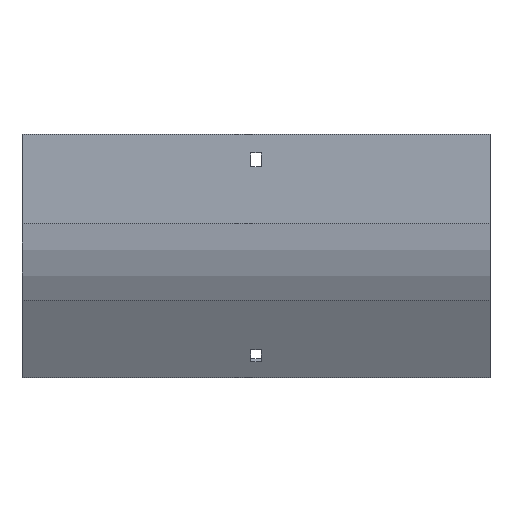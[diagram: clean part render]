
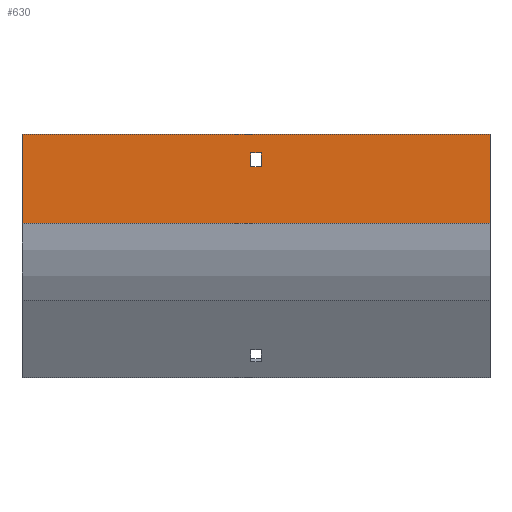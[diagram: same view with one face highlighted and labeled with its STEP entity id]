
A CAD part, front view. The second image highlights one B-rep face of the part: STEP entity #630.
In plain terms, the highlighted planar face has unit normal (0, -1, 0).
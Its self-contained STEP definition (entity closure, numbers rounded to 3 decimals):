
#5 = CARTESIAN_POINT ( 'NONE',  ( -152., -104., -57.867 ) ) ;
#12 = CARTESIAN_POINT ( 'NONE',  ( -152., -104., -57.867 ) ) ;
#50 = ORIENTED_EDGE ( 'NONE', *, *, #1092, .F. ) ;
#71 = DIRECTION ( 'NONE',  ( 0., 0., 1. ) ) ;
#72 = CARTESIAN_POINT ( 'NONE',  ( 152., -104., -57.867 ) ) ;
#90 = ORIENTED_EDGE ( 'NONE', *, *, #1543, .T. ) ;
#92 = CARTESIAN_POINT ( 'NONE',  ( 152., -104., 0. ) ) ;
#128 = ORIENTED_EDGE ( 'NONE', *, *, #1871, .T. ) ;
#140 = VECTOR ( 'NONE', #1636, 1000. ) ;
#143 = DIRECTION ( 'NONE',  ( 0., 0., 1. ) ) ;
#203 = LINE ( 'NONE', #1603, #540 ) ;
#222 = DIRECTION ( 'NONE',  ( 0., 1., 0. ) ) ;
#244 = DIRECTION ( 'NONE',  ( -1., 0., 0. ) ) ;
#325 = LINE ( 'NONE', #1801, #1879 ) ;
#332 = VERTEX_POINT ( 'NONE', #92 ) ;
#393 = CARTESIAN_POINT ( 'NONE',  ( -3.25, -104., -21. ) ) ;
#402 = VERTEX_POINT ( 'NONE', #1693 ) ;
#410 = EDGE_CURVE ( 'NONE', #763, #1833, #1229, .T. ) ;
#418 = LINE ( 'NONE', #981, #140 ) ;
#486 = ORIENTED_EDGE ( 'NONE', *, *, #1238, .T. ) ;
#516 = EDGE_CURVE ( 'NONE', #402, #1298, #325, .T. ) ;
#540 = VECTOR ( 'NONE', #1296, 1000. ) ;
#557 = CARTESIAN_POINT ( 'NONE',  ( 3.25, -104., -21. ) ) ;
#569 = DIRECTION ( 'NONE',  ( -1., 0., 0. ) ) ;
#630 = ADVANCED_FACE ( 'NONE', ( #1109, #1713 ), #1881, .F. ) ;
#755 = CARTESIAN_POINT ( 'NONE',  ( 152., -104., -57.867 ) ) ;
#759 = DIRECTION ( 'NONE',  ( 0., 0., -1. ) ) ;
#763 = VERTEX_POINT ( 'NONE', #1504 ) ;
#767 = ORIENTED_EDGE ( 'NONE', *, *, #1152, .T. ) ;
#784 = LINE ( 'NONE', #5, #1062 ) ;
#863 = EDGE_LOOP ( 'NONE', ( #767, #1404, #50, #90 ) ) ;
#899 = LINE ( 'NONE', #1510, #1707 ) ;
#919 = EDGE_LOOP ( 'NONE', ( #486, #1933, #128, #1400 ) ) ;
#923 = DIRECTION ( 'NONE',  ( 0., 0., -1. ) ) ;
#964 = VERTEX_POINT ( 'NONE', #12 ) ;
#966 = CARTESIAN_POINT ( 'NONE',  ( 152., -104., -57.867 ) ) ;
#981 = CARTESIAN_POINT ( 'NONE',  ( 152., -104., -57.867 ) ) ;
#1016 = VECTOR ( 'NONE', #143, 1000. ) ;
#1062 = VECTOR ( 'NONE', #759, 1000. ) ;
#1092 = EDGE_CURVE ( 'NONE', #332, #1596, #418, .T. ) ;
#1109 = FACE_BOUND ( 'NONE', #919, .T. ) ;
#1152 = EDGE_CURVE ( 'NONE', #1386, #964, #784, .T. ) ;
#1155 = LINE ( 'NONE', #393, #1884 ) ;
#1229 = LINE ( 'NONE', #1845, #1016 ) ;
#1238 = EDGE_CURVE ( 'NONE', #1298, #763, #1155, .T. ) ;
#1296 = DIRECTION ( 'NONE',  ( -1., 0., 0. ) ) ;
#1298 = VERTEX_POINT ( 'NONE', #557 ) ;
#1308 = EDGE_CURVE ( 'NONE', #1596, #964, #1344, .T. ) ;
#1330 = CARTESIAN_POINT ( 'NONE',  ( -152., -104., 0. ) ) ;
#1344 = LINE ( 'NONE', #755, #1605 ) ;
#1386 = VERTEX_POINT ( 'NONE', #1330 ) ;
#1400 = ORIENTED_EDGE ( 'NONE', *, *, #516, .T. ) ;
#1404 = ORIENTED_EDGE ( 'NONE', *, *, #1308, .F. ) ;
#1504 = CARTESIAN_POINT ( 'NONE',  ( -3.25, -104., -21. ) ) ;
#1510 = CARTESIAN_POINT ( 'NONE',  ( -3.25, -104., -12. ) ) ;
#1543 = EDGE_CURVE ( 'NONE', #332, #1386, #203, .T. ) ;
#1596 = VERTEX_POINT ( 'NONE', #72 ) ;
#1602 = CARTESIAN_POINT ( 'NONE',  ( -3.25, -104., -12. ) ) ;
#1603 = CARTESIAN_POINT ( 'NONE',  ( 152., -104., 0. ) ) ;
#1605 = VECTOR ( 'NONE', #569, 1000. ) ;
#1636 = DIRECTION ( 'NONE',  ( 0., 0., -1. ) ) ;
#1652 = DIRECTION ( 'NONE',  ( 1., 0., 0. ) ) ;
#1693 = CARTESIAN_POINT ( 'NONE',  ( 3.25, -104., -12. ) ) ;
#1707 = VECTOR ( 'NONE', #1652, 1000. ) ;
#1713 = FACE_OUTER_BOUND ( 'NONE', #863, .T. ) ;
#1801 = CARTESIAN_POINT ( 'NONE',  ( 3.25, -104., -21. ) ) ;
#1833 = VERTEX_POINT ( 'NONE', #1602 ) ;
#1845 = CARTESIAN_POINT ( 'NONE',  ( -3.25, -104., -21. ) ) ;
#1853 = AXIS2_PLACEMENT_3D ( 'NONE', #966, #222, #71 ) ;
#1871 = EDGE_CURVE ( 'NONE', #1833, #402, #899, .T. ) ;
#1879 = VECTOR ( 'NONE', #923, 1000. ) ;
#1881 = PLANE ( 'NONE',  #1853 ) ;
#1884 = VECTOR ( 'NONE', #244, 1000. ) ;
#1933 = ORIENTED_EDGE ( 'NONE', *, *, #410, .T. ) ;
